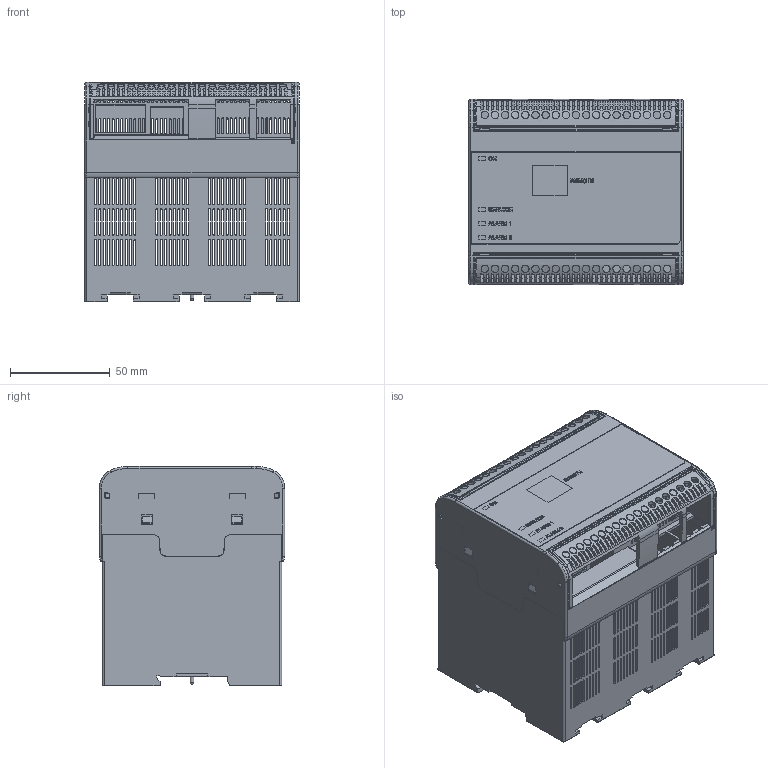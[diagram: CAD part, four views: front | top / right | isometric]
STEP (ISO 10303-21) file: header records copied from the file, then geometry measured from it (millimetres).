
FILE_DESCRIPTION (( 'STEP AP214' ), '1' );
FILE_NAME ('Z143508_iso685-S.STEP', '2016-05-03T08:50:09', ( 'User' ), ( 'Bender' ), 'SwSTEP 2.0', 'SolidWorks 2016', '' );
FILE_SCHEMA (( 'AUTOMOTIVE_DESIGN' ));
Length unit declared in the file: millimetre
Products named in the file (6): A 332421_Z143532; Z152359.01_J26x_Klemmenabdeckung_V2.11a=V2 - Signalgelb - RAL 1003; Z152359.01_J26x_Klemmenabdeckung_V1.11=V1 - Signalgelb - RAL 1003; Z152357.05_J26x_Oberteil_V23.41  =V1 - Signalgelb - RAL 1003; Z152358.08_J26x_Unterteil_Umbragrau - RAL 7022; Z143508_iso685-S
Assembly tree (5 placements, depth 2):
  Z143508_iso685-S
    Z152358.08_J26x_Unterteil_Umbragrau - RAL 7022
    Z152357.05_J26x_Oberteil_V23.41  =V1 - Signalgelb - RAL 1003
    Z152359.01_J26x_Klemmenabdeckung_V1.11=V1 - Signalgelb - RAL 1003
    Z152359.01_J26x_Klemmenabdeckung_V2.11a=V2 - Signalgelb - RAL 1003
    A 332421_Z143532
Bounding box: 108 x 93 x 110.2 mm (x, y, z)
Volume: 138978.2 mm3; surface area: 171154.3 mm2
Topology: 10 solids, 10 shells, 4285 faces, 12551 edges, 8234 vertices
Faces by surface type: plane 2854, cylinder 1163, bspline 144, cone 81, torus 41, sphere 2
Full cylindrical faces by diameter (mm): 2 x1, 2.2 x12, 3 x3, 3.7 x38
Entity records: 154278 total; most frequent: CARTESIAN_POINT 42493, ORIENTED_EDGE 24918, DIRECTION 20388, EDGE_CURVE 12459, VECTOR 9178, LINE 9178, VERTEX_POINT 8210, AXIS2_PLACEMENT_3D 5605
